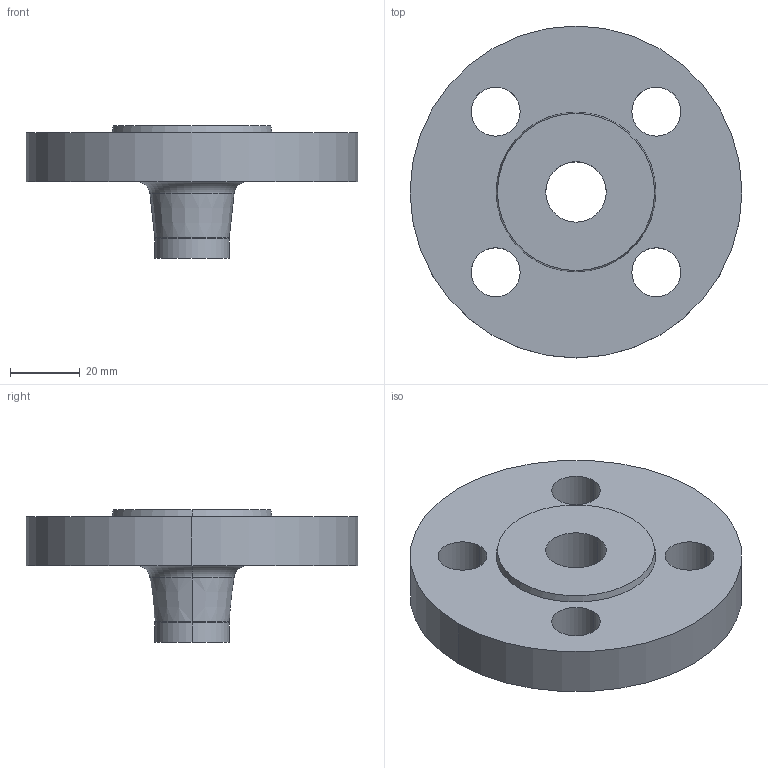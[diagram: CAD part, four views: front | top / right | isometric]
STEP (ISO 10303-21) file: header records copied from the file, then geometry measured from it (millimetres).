
FILE_DESCRIPTION (( 'STEP AP214' ), '1' );
FILE_NAME ('PN40 DN15 Type 11 - Type B Face.STEP', '2018-12-29T15:04:25', ( '' ), ( '' ), 'SwSTEP 2.0', 'SolidWorks 2019', '' );
FILE_SCHEMA (( 'AUTOMOTIVE_DESIGN' ));
Length unit declared in the file: millimetre
Products named in the file (1): PN40 DN15 Type 11 - Type B Face
Bounding box: 95 x 95 x 38 mm (x, y, z)
Volume: 93979.2 mm3; surface area: 22764.3 mm2
Topology: 1 solids, 1 shells, 26 faces, 60 edges, 38 vertices
Faces by surface type: cylinder 14, cone 4, torus 4, plane 4
Entity records: 812 total; most frequent: DIRECTION 156, CARTESIAN_POINT 125, ORIENTED_EDGE 120, AXIS2_PLACEMENT_3D 69, EDGE_CURVE 60, CIRCLE 42, VERTEX_POINT 38, EDGE_LOOP 38
